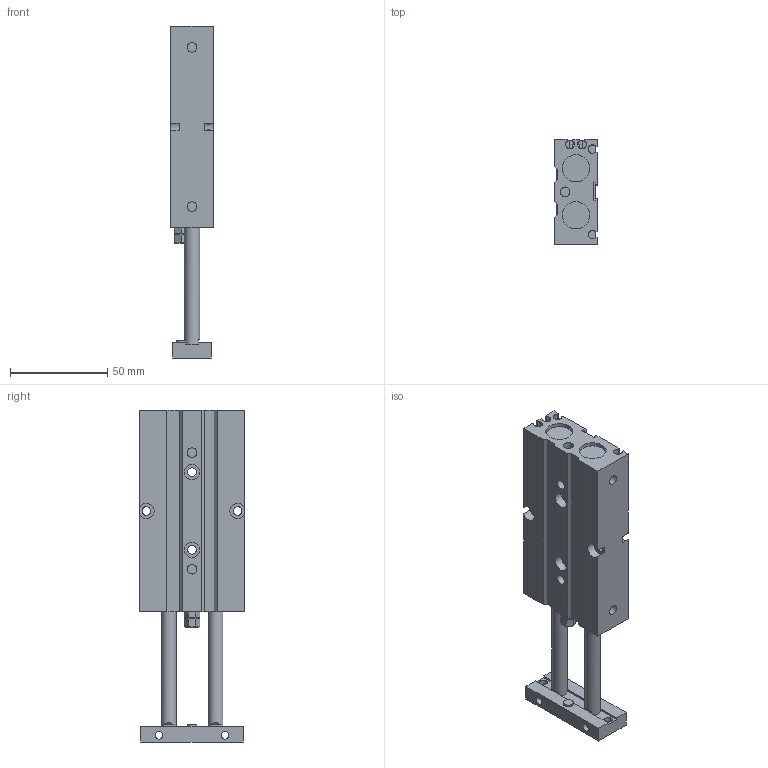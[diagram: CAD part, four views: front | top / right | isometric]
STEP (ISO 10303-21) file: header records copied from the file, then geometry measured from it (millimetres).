
FILE_DESCRIPTION((''),'2;1');
FILE_NAME('I:\3D電子目錄\氣缸\TD\TD16\TD16\TD16x50.stp','2007-08-06T09:39:14',('Administrator'),(''),'Autodesk Inventor 2008','Autodesk Inventor 2008','');
FILE_SCHEMA(('AUTOMOTIVE_DESIGN { 1 0 10303 214 1 1 1 1 }'));
Length unit declared in the file: millimetre
Products named in the file (1): TD16X50
Bounding box: 22 x 54 x 171 mm (x, y, z)
Volume: 122301.7 mm3; surface area: 32394.5 mm2
Topology: 1 solids, 3 shells, 179 faces, 465 edges, 304 vertices
Faces by surface type: plane 116, cylinder 42, bspline 12, cone 7, torus 2
Full cylindrical faces by diameter (mm): 4 x4, 4.5 x4, 5 x8, 6 x2, 7 x2, 8 x4, 14 x4
Entity records: 5819 total; most frequent: CARTESIAN_POINT 1627, ORIENTED_EDGE 824, DIRECTION 820, EDGE_CURVE 412, VERTEX_POINT 292, AXIS2_PLACEMENT_3D 274, VECTOR 272, LINE 272
